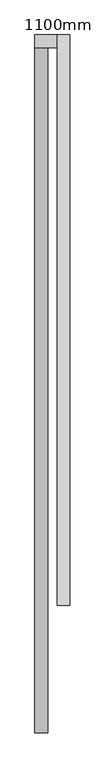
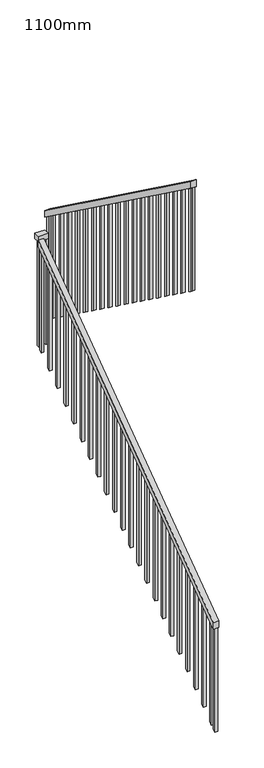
"""IFC4 building model written with IfcOpenShell, lengths in millimetres: railing geometry, 1100mm."""

from ifc_helpers import new_model, si_unit, frame, origin, place, context, project, spatial, polyline, outline, extrude, source, transform, mapped, element, save


def railing_1100mm_7da75a1e(model_context):
    return source(origin(), model_context, "Body", "SweptSolid", [
        extrude(outline(polyline([(2041.5551306, 1219.9933159), (2041.5551306, 1281.8181818), (4741.5551306, 3245.4545455), (4741.5551306, 3183.6296795), (2041.5551306, 1219.9933159)])), frame((35232.0703633, 0.0, 0.0), z_axis=(1.0, 0.0, 0.0), x_axis=(0.0, 1.0, 0.0)), (0.0, 0.0, 1.0), 50.0),
        extrude(outline(polyline([(35232.0703633, 4741.5551306), (35232.0703633, 4791.5551306), (35319.9255273, 4791.5551306), (35319.9255273, 4741.5551306), (35232.0703633, 4741.5551306)])), frame((0.0, 0.0, 3231.8181818), z_axis=(0.0, 0.0, 1.0), x_axis=(1.0, 0.0, 0.0)), (0.0, 0.0, 1.0), 50.0),
        extrude(outline(polyline([(4791.5551306, 3463.6363636), (4791.5551306, 3401.8114977), (2541.5551306, 5038.1751341), (2541.5551306, 5100.0), (4791.5551306, 3463.6363636)])), frame((35319.9255273, 0.0, 0.0), z_axis=(1.0, 0.0, 0.0), x_axis=(0.0, 1.0, 0.0)), (0.0, 0.0, 1.0), 50.0),
        extrude(outline(polyline([(2591.5551306, 5001.8114977), (2591.5551306, 4029.3786078), (2566.5551306, 4047.560426), (2566.5551306, 5019.9933159), (2591.5551306, 5001.8114977)])), frame((35332.4255273, 0.0, 0.0), z_axis=(1.0, 0.0, 0.0), x_axis=(0.0, 1.0, 0.0)), (0.0, 0.0, 1.0), 25.0),
        extrude(outline(polyline([(2716.5551306, 4910.9024068), (2716.5551306, 3938.4695169), (2691.5551306, 3956.6513351), (2691.5551306, 4929.084225), (2716.5551306, 4910.9024068)])), frame((35332.4255273, 0.0, 0.0), z_axis=(1.0, 0.0, 0.0), x_axis=(0.0, 1.0, 0.0)), (0.0, 0.0, 1.0), 25.0),
        extrude(outline(polyline([(2841.5551306, 4819.9933159), (2841.5551306, 3847.560426), (2816.5551306, 3865.7422442), (2816.5551306, 4838.1751341), (2841.5551306, 4819.9933159)])), frame((35332.4255273, 0.0, 0.0), z_axis=(1.0, 0.0, 0.0), x_axis=(0.0, 1.0, 0.0)), (0.0, 0.0, 1.0), 25.0),
        extrude(outline(polyline([(2966.5551306, 4729.084225), (2966.5551306, 3756.6513351), (2941.5551306, 3774.8331533), (2941.5551306, 4747.2660431), (2966.5551306, 4729.084225)])), frame((35332.4255273, 0.0, 0.0), z_axis=(1.0, 0.0, 0.0), x_axis=(0.0, 1.0, 0.0)), (0.0, 0.0, 1.0), 25.0),
        extrude(outline(polyline([(3091.5551306, 4638.1751341), (3091.5551306, 3665.7422442), (3066.5551306, 3683.9240624), (3066.5551306, 4656.3569522), (3091.5551306, 4638.1751341)])), frame((35332.4255273, 0.0, 0.0), z_axis=(1.0, 0.0, 0.0), x_axis=(0.0, 1.0, 0.0)), (0.0, 0.0, 1.0), 25.0),
        extrude(outline(polyline([(3216.5551306, 4547.2660431), (3216.5551306, 3574.8331533), (3191.5551306, 3593.0149715), (3191.5551306, 4565.4478613), (3216.5551306, 4547.2660431)])), frame((35332.4255273, 0.0, 0.0), z_axis=(1.0, 0.0, 0.0), x_axis=(0.0, 1.0, 0.0)), (0.0, 0.0, 1.0), 25.0),
        extrude(outline(polyline([(3341.5551306, 4456.3569522), (3341.5551306, 3483.9240624), (3316.5551306, 3502.1058806), (3316.5551306, 4474.5387704), (3341.5551306, 4456.3569522)])), frame((35332.4255273, 0.0, 0.0), z_axis=(1.0, 0.0, 0.0), x_axis=(0.0, 1.0, 0.0)), (0.0, 0.0, 1.0), 25.0),
        extrude(outline(polyline([(3466.5551306, 4365.4478613), (3466.5551306, 3393.0149715), (3441.5551306, 3411.1967897), (3441.5551306, 4383.6296795), (3466.5551306, 4365.4478613)])), frame((35332.4255273, 0.0, 0.0), z_axis=(1.0, 0.0, 0.0), x_axis=(0.0, 1.0, 0.0)), (0.0, 0.0, 1.0), 25.0),
        extrude(outline(polyline([(3591.5551306, 4274.5387704), (3591.5551306, 3302.1058806), (3566.5551306, 3320.2876987), (3566.5551306, 4292.7205886), (3591.5551306, 4274.5387704)])), frame((35332.4255273, 0.0, 0.0), z_axis=(1.0, 0.0, 0.0), x_axis=(0.0, 1.0, 0.0)), (0.0, 0.0, 1.0), 25.0),
        extrude(outline(polyline([(3716.5551306, 4183.6296795), (3716.5551306, 3211.1967897), (3691.5551306, 3229.3786078), (3691.5551306, 4201.8114977), (3716.5551306, 4183.6296795)])), frame((35332.4255273, 0.0, 0.0), z_axis=(1.0, 0.0, 0.0), x_axis=(0.0, 1.0, 0.0)), (0.0, 0.0, 1.0), 25.0),
        extrude(outline(polyline([(3841.5551306, 4092.7205886), (3841.5551306, 3120.2876987), (3816.5551306, 3138.4695169), (3816.5551306, 4110.9024068), (3841.5551306, 4092.7205886)])), frame((35332.4255273, 0.0, 0.0), z_axis=(1.0, 0.0, 0.0), x_axis=(0.0, 1.0, 0.0)), (0.0, 0.0, 1.0), 25.0),
        extrude(outline(polyline([(3966.5551306, 4001.8114977), (3966.5551306, 3029.3786078), (3941.5551306, 3047.560426), (3941.5551306, 4019.9933159), (3966.5551306, 4001.8114977)])), frame((35332.4255273, 0.0, 0.0), z_axis=(1.0, 0.0, 0.0), x_axis=(0.0, 1.0, 0.0)), (0.0, 0.0, 1.0), 25.0),
        extrude(outline(polyline([(4091.5551306, 3910.9024068), (4091.5551306, 2938.4695169), (4066.5551306, 2956.6513351), (4066.5551306, 3929.084225), (4091.5551306, 3910.9024068)])), frame((35332.4255273, 0.0, 0.0), z_axis=(1.0, 0.0, 0.0), x_axis=(0.0, 1.0, 0.0)), (0.0, 0.0, 1.0), 25.0),
        extrude(outline(polyline([(4216.5551306, 3819.9933159), (4216.5551306, 2847.560426), (4191.5551306, 2865.7422442), (4191.5551306, 3838.1751341), (4216.5551306, 3819.9933159)])), frame((35332.4255273, 0.0, 0.0), z_axis=(1.0, 0.0, 0.0), x_axis=(0.0, 1.0, 0.0)), (0.0, 0.0, 1.0), 25.0),
        extrude(outline(polyline([(4341.5551306, 3729.084225), (4341.5551306, 2756.6513351), (4316.5551306, 2774.8331533), (4316.5551306, 3747.2660431), (4341.5551306, 3729.084225)])), frame((35332.4255273, 0.0, 0.0), z_axis=(1.0, 0.0, 0.0), x_axis=(0.0, 1.0, 0.0)), (0.0, 0.0, 1.0), 25.0),
        extrude(outline(polyline([(4466.5551306, 3638.1751341), (4466.5551306, 2665.7422442), (4441.5551306, 2683.9240624), (4441.5551306, 3656.3569522), (4466.5551306, 3638.1751341)])), frame((35332.4255273, 0.0, 0.0), z_axis=(1.0, 0.0, 0.0), x_axis=(0.0, 1.0, 0.0)), (0.0, 0.0, 1.0), 25.0),
        extrude(outline(polyline([(4591.5551306, 3547.2660431), (4591.5551306, 2574.8331533), (4566.5551306, 2593.0149715), (4566.5551306, 3565.4478613), (4591.5551306, 3547.2660431)])), frame((35332.4255273, 0.0, 0.0), z_axis=(1.0, 0.0, 0.0), x_axis=(0.0, 1.0, 0.0)), (0.0, 0.0, 1.0), 25.0),
        extrude(outline(polyline([(4716.5551306, 3456.3569522), (4716.5551306, 2483.9240624), (4691.5551306, 2502.1058806), (4691.5551306, 3474.5387704), (4716.5551306, 3456.3569522)])), frame((35332.4255273, 0.0, 0.0), z_axis=(1.0, 0.0, 0.0), x_axis=(0.0, 1.0, 0.0)), (0.0, 0.0, 1.0), 25.0),
        extrude(outline(polyline([(35307.0703633, 4754.0551306), (35307.0703633, 4779.0551306), (35332.0703633, 4779.0551306), (35332.0703633, 4754.0551306), (35307.0703633, 4754.0551306)])), frame((0.0, 0.0, 2228.5473649), z_axis=(0.0, 0.0, 1.0), x_axis=(1.0, 0.0, 0.0)), (0.0, 0.0, 1.0), 1003.2708169),
        extrude(outline(polyline([(4716.5551306, 2193.0149715), (4716.5551306, 3165.4478613), (4741.5551306, 3183.6296795), (4741.5551306, 2211.1967897), (4716.5551306, 2193.0149715)])), frame((35244.5703633, 0.0, 0.0), z_axis=(1.0, 0.0, 0.0), x_axis=(0.0, 1.0, 0.0)), (0.0, 0.0, 1.0), 25.0),
        extrude(outline(polyline([(4591.5551306, 2102.1058806), (4591.5551306, 3074.5387704), (4616.5551306, 3092.7205886), (4616.5551306, 2120.2876987), (4591.5551306, 2102.1058806)])), frame((35244.5703633, 0.0, 0.0), z_axis=(1.0, 0.0, 0.0), x_axis=(0.0, 1.0, 0.0)), (0.0, 0.0, 1.0), 25.0),
        extrude(outline(polyline([(4466.5551306, 2011.1967897), (4466.5551306, 2983.6296795), (4491.5551306, 3001.8114977), (4491.5551306, 2029.3786078), (4466.5551306, 2011.1967897)])), frame((35244.5703633, 0.0, 0.0), z_axis=(1.0, 0.0, 0.0), x_axis=(0.0, 1.0, 0.0)), (0.0, 0.0, 1.0), 25.0),
        extrude(outline(polyline([(4341.5551306, 1920.2876987), (4341.5551306, 2892.7205886), (4366.5551306, 2910.9024068), (4366.5551306, 1938.4695169), (4341.5551306, 1920.2876987)])), frame((35244.5703633, 0.0, 0.0), z_axis=(1.0, 0.0, 0.0), x_axis=(0.0, 1.0, 0.0)), (0.0, 0.0, 1.0), 25.0),
        extrude(outline(polyline([(4216.5551306, 1829.3786078), (4216.5551306, 2801.8114977), (4241.5551306, 2819.9933159), (4241.5551306, 1847.560426), (4216.5551306, 1829.3786078)])), frame((35244.5703633, 0.0, 0.0), z_axis=(1.0, 0.0, 0.0), x_axis=(0.0, 1.0, 0.0)), (0.0, 0.0, 1.0), 25.0),
        extrude(outline(polyline([(4091.5551306, 1738.4695169), (4091.5551306, 2710.9024068), (4116.5551306, 2729.084225), (4116.5551306, 1756.6513351), (4091.5551306, 1738.4695169)])), frame((35244.5703633, 0.0, 0.0), z_axis=(1.0, 0.0, 0.0), x_axis=(0.0, 1.0, 0.0)), (0.0, 0.0, 1.0), 25.0),
        extrude(outline(polyline([(3966.5551306, 1647.560426), (3966.5551306, 2619.9933159), (3991.5551306, 2638.1751341), (3991.5551306, 1665.7422442), (3966.5551306, 1647.560426)])), frame((35244.5703633, 0.0, 0.0), z_axis=(1.0, 0.0, 0.0), x_axis=(0.0, 1.0, 0.0)), (0.0, 0.0, 1.0), 25.0),
        extrude(outline(polyline([(3841.5551306, 1556.6513351), (3841.5551306, 2529.084225), (3866.5551306, 2547.2660431), (3866.5551306, 1574.8331533), (3841.5551306, 1556.6513351)])), frame((35244.5703633, 0.0, 0.0), z_axis=(1.0, 0.0, 0.0), x_axis=(0.0, 1.0, 0.0)), (0.0, 0.0, 1.0), 25.0),
        extrude(outline(polyline([(3716.5551306, 1465.7422442), (3716.5551306, 2438.1751341), (3741.5551306, 2456.3569522), (3741.5551306, 1483.9240624), (3716.5551306, 1465.7422442)])), frame((35244.5703633, 0.0, 0.0), z_axis=(1.0, 0.0, 0.0), x_axis=(0.0, 1.0, 0.0)), (0.0, 0.0, 1.0), 25.0),
        extrude(outline(polyline([(3591.5551306, 1374.8331533), (3591.5551306, 2347.2660431), (3616.5551306, 2365.4478613), (3616.5551306, 1393.0149715), (3591.5551306, 1374.8331533)])), frame((35244.5703633, 0.0, 0.0), z_axis=(1.0, 0.0, 0.0), x_axis=(0.0, 1.0, 0.0)), (0.0, 0.0, 1.0), 25.0),
        extrude(outline(polyline([(3466.5551306, 1283.9240624), (3466.5551306, 2256.3569522), (3491.5551306, 2274.5387704), (3491.5551306, 1302.1058806), (3466.5551306, 1283.9240624)])), frame((35244.5703633, 0.0, 0.0), z_axis=(1.0, 0.0, 0.0), x_axis=(0.0, 1.0, 0.0)), (0.0, 0.0, 1.0), 25.0),
        extrude(outline(polyline([(3341.5551306, 1193.0149715), (3341.5551306, 2165.4478613), (3366.5551306, 2183.6296795), (3366.5551306, 1211.1967897), (3341.5551306, 1193.0149715)])), frame((35244.5703633, 0.0, 0.0), z_axis=(1.0, 0.0, 0.0), x_axis=(0.0, 1.0, 0.0)), (0.0, 0.0, 1.0), 25.0),
        extrude(outline(polyline([(3216.5551306, 1102.1058806), (3216.5551306, 2074.5387704), (3241.5551306, 2092.7205886), (3241.5551306, 1120.2876987), (3216.5551306, 1102.1058806)])), frame((35244.5703633, 0.0, 0.0), z_axis=(1.0, 0.0, 0.0), x_axis=(0.0, 1.0, 0.0)), (0.0, 0.0, 1.0), 25.0),
        extrude(outline(polyline([(3091.5551306, 1011.1967897), (3091.5551306, 1983.6296795), (3116.5551306, 2001.8114977), (3116.5551306, 1029.3786078), (3091.5551306, 1011.1967897)])), frame((35244.5703633, 0.0, 0.0), z_axis=(1.0, 0.0, 0.0), x_axis=(0.0, 1.0, 0.0)), (0.0, 0.0, 1.0), 25.0),
        extrude(outline(polyline([(2966.5551306, 920.2876987), (2966.5551306, 1892.7205886), (2991.5551306, 1910.9024068), (2991.5551306, 938.4695169), (2966.5551306, 920.2876987)])), frame((35244.5703633, 0.0, 0.0), z_axis=(1.0, 0.0, 0.0), x_axis=(0.0, 1.0, 0.0)), (0.0, 0.0, 1.0), 25.0),
        extrude(outline(polyline([(2841.5551306, 829.3786078), (2841.5551306, 1801.8114977), (2866.5551306, 1819.9933159), (2866.5551306, 847.560426), (2841.5551306, 829.3786078)])), frame((35244.5703633, 0.0, 0.0), z_axis=(1.0, 0.0, 0.0), x_axis=(0.0, 1.0, 0.0)), (0.0, 0.0, 1.0), 25.0),
        extrude(outline(polyline([(2716.5551306, 738.4695169), (2716.5551306, 1710.9024068), (2741.5551306, 1729.084225), (2741.5551306, 756.6513351), (2716.5551306, 738.4695169)])), frame((35244.5703633, 0.0, 0.0), z_axis=(1.0, 0.0, 0.0), x_axis=(0.0, 1.0, 0.0)), (0.0, 0.0, 1.0), 25.0),
        extrude(outline(polyline([(2591.5551306, 647.560426), (2591.5551306, 1619.9933159), (2616.5551306, 1638.1751341), (2616.5551306, 665.7422442), (2591.5551306, 647.560426)])), frame((35244.5703633, 0.0, 0.0), z_axis=(1.0, 0.0, 0.0), x_axis=(0.0, 1.0, 0.0)), (0.0, 0.0, 1.0), 25.0),
        extrude(outline(polyline([(2466.5551306, 556.6513351), (2466.5551306, 1529.084225), (2491.5551306, 1547.2660431), (2491.5551306, 574.8331533), (2466.5551306, 556.6513351)])), frame((35244.5703633, 0.0, 0.0), z_axis=(1.0, 0.0, 0.0), x_axis=(0.0, 1.0, 0.0)), (0.0, 0.0, 1.0), 25.0),
        extrude(outline(polyline([(2341.5551306, 465.7422442), (2341.5551306, 1438.1751341), (2366.5551306, 1456.3569522), (2366.5551306, 483.9240624), (2341.5551306, 465.7422442)])), frame((35244.5703633, 0.0, 0.0), z_axis=(1.0, 0.0, 0.0), x_axis=(0.0, 1.0, 0.0)), (0.0, 0.0, 1.0), 25.0),
        extrude(outline(polyline([(2216.5551306, 374.8331533), (2216.5551306, 1347.2660431), (2241.5551306, 1365.4478613), (2241.5551306, 393.0149715), (2216.5551306, 374.8331533)])), frame((35244.5703633, 0.0, 0.0), z_axis=(1.0, 0.0, 0.0), x_axis=(0.0, 1.0, 0.0)), (0.0, 0.0, 1.0), 25.0),
        extrude(outline(polyline([(2091.5551306, 283.9240624), (2091.5551306, 1256.3569522), (2116.5551306, 1274.5387704), (2116.5551306, 302.1058806), (2091.5551306, 283.9240624)])), frame((35244.5703633, 0.0, 0.0), z_axis=(1.0, 0.0, 0.0), x_axis=(0.0, 1.0, 0.0)), (0.0, 0.0, 1.0), 25.0),
        extrude(outline(polyline([(4779.0551306, 3410.9024068), (4779.0551306, 2438.4695169), (4754.0551306, 2456.6513351), (4754.0551306, 3429.084225), (4779.0551306, 3410.9024068)])), frame((35332.4255273, 0.0, 0.0), z_axis=(1.0, 0.0, 0.0), x_axis=(0.0, 1.0, 0.0)), (0.0, 0.0, 1.0), 25.0),
        extrude(outline(polyline([(35244.5703633, 4754.0551306), (35244.5703633, 4779.0551306), (35269.5703633, 4779.0551306), (35269.5703633, 4754.0551306), (35244.5703633, 4754.0551306)])), frame((0.0, 0.0, 2228.5473649), z_axis=(0.0, 0.0, 1.0), x_axis=(1.0, 0.0, 0.0)), (0.0, 0.0, 1.0), 1003.2708169),
        extrude(outline(polyline([(2566.5551306, 5019.9933159), (2566.5551306, 4047.560426), (2541.5551306, 4065.7422442), (2541.5551306, 5038.1751341), (2566.5551306, 5019.9933159)])), frame((35332.4255273, 0.0, 0.0), z_axis=(1.0, 0.0, 0.0), x_axis=(0.0, 1.0, 0.0)), (0.0, 0.0, 1.0), 25.0),
        extrude(outline(polyline([(2041.5551306, 247.560426), (2041.5551306, 1219.9933159), (2066.5551306, 1238.1751341), (2066.5551306, 265.7422442), (2041.5551306, 247.560426)])), frame((35244.5703633, 0.0, 0.0), z_axis=(1.0, 0.0, 0.0), x_axis=(0.0, 1.0, 0.0)), (0.0, 0.0, 1.0), 25.0),
    ])


if __name__ == "__main__":
    model = new_model("IFC4")
    model_context = context("Model", 3, world=origin())
    ifc_project = project(units=[si_unit("LENGTHUNIT", "METRE", prefix="MILLI")], contexts=[model_context])
    site = spatial("IfcSite", under=ifc_project)
    building = spatial("IfcBuilding", under=site)
    placement = place(None, origin())
    railing_1100mm_shape = railing_1100mm_7da75a1e(model_context)
    element("IfcRailing", 1, ObjectType="1100mm", at=placement, inside=building, context=model_context, shape_type="MappedRepresentation", body=[
        mapped(railing_1100mm_shape, transform((0.0, 0.0, 0.0), x_axis=(1.0, 0.0, 0.0), y_axis=(0.0, 1.0, 0.0), z_axis=(0.0, 0.0, 1.0))),
    ])
    save(model, "model.ifc")
